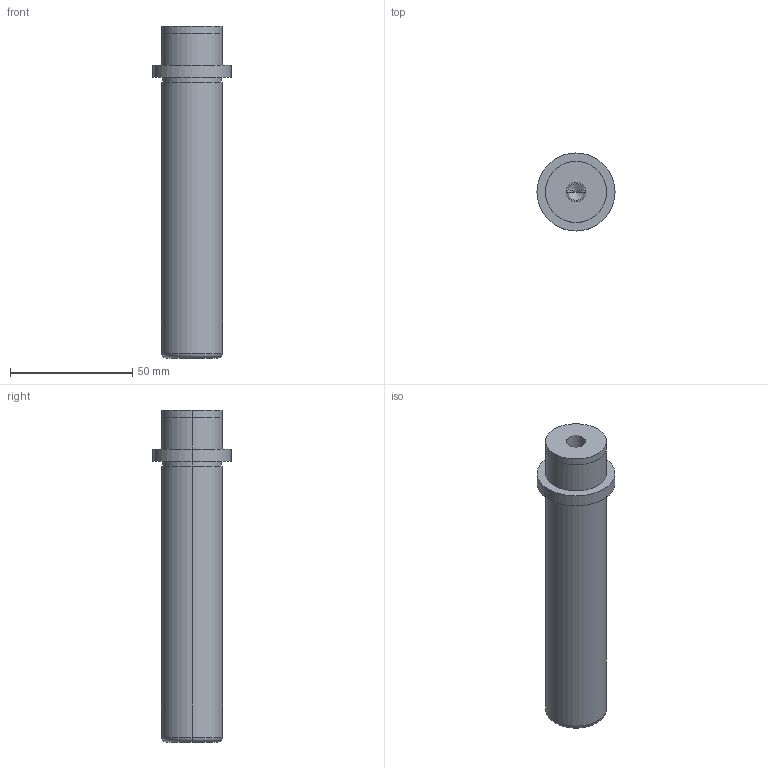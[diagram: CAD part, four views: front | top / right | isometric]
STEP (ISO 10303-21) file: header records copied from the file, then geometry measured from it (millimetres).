
FILE_DESCRIPTION(/* description */ (''),/* implementation_level */ '2;1');
FILE_NAME(/* name */ '3d_sgpr25-120_00295_r00.stp',/* time_stamp */ '2011-01-10T14:11:06+09:00',/* author */ ('MISUMI'),/* organization */ (''),/* preprocessor_version */ 'ST-DEVELOPER v11',/* originating_system */ 'UGS - NX 5.0',/* authorisation */ '');
FILE_SCHEMA (('CONFIG_CONTROL_DESIGN'));
Length unit declared in the file: millimetre
Products named in the file (1): 3d_sgpr25-120_00295_r00
Bounding box: 32 x 32 x 136 mm (x, y, z)
Volume: 67045.7 mm3; surface area: 12973.7 mm2
Topology: 1 solids, 1 shells, 24 faces, 48 edges, 29 vertices
Faces by surface type: cylinder 14, plane 6, cone 2, torus 2
Entity records: 706 total; most frequent: DIRECTION 126, CARTESIAN_POINT 100, ORIENTED_EDGE 92, AXIS2_PLACEMENT_3D 55, EDGE_CURVE 46, CIRCLE 30, EDGE_LOOP 29, VERTEX_POINT 29
